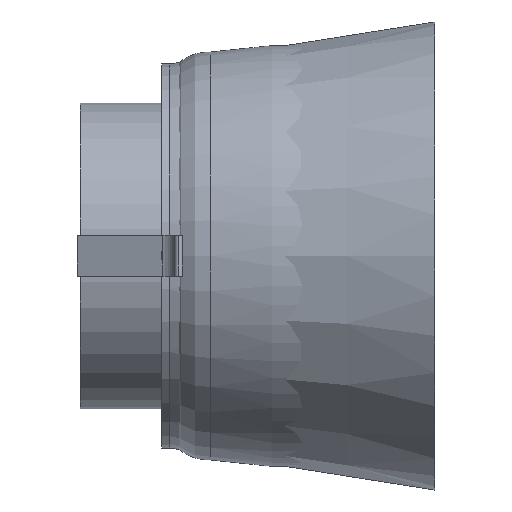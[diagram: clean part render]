
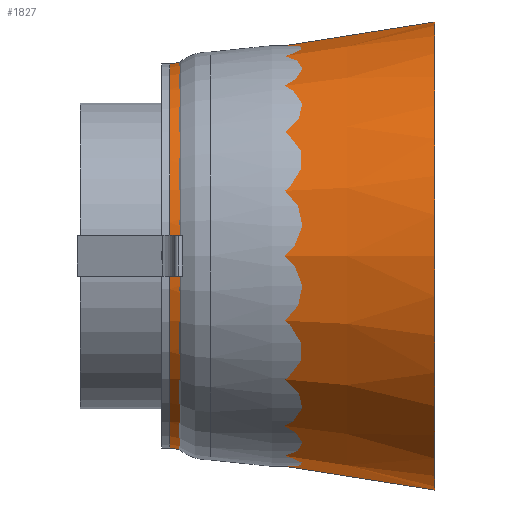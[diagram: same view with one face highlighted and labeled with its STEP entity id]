
A CAD part, left-side view. The second image highlights one B-rep face of the part: STEP entity #1827.
In plain terms, the highlighted conical face has half-angle 9 degrees and reference radius 47.069 mm.
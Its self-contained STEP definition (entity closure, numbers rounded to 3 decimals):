
#66 = DIRECTION ( 'NONE',  ( 0., -1., 0. ) ) ;
#121 = FACE_OUTER_BOUND ( 'NONE', #1306, .T. ) ;
#146 = CARTESIAN_POINT ( 'NONE',  ( 0., 65., -47.069 ) ) ;
#173 = AXIS2_PLACEMENT_3D ( 'NONE', #1304, #1663, #500 ) ;
#178 = EDGE_CURVE ( 'NONE', #1421, #1646, #942, .T. ) ;
#328 = CARTESIAN_POINT ( 'NONE',  ( 0., 65., 47.069 ) ) ;
#332 = ORIENTED_EDGE ( 'NONE', *, *, #1939, .F. ) ;
#401 = CARTESIAN_POINT ( 'NONE',  ( 0., 0., 57.364 ) ) ;
#467 = VECTOR ( 'NONE', #2043, 1000. ) ;
#480 = CARTESIAN_POINT ( 'NONE',  ( 0., 65., -47.069 ) ) ;
#500 = DIRECTION ( 'NONE',  ( 0., 0., -1. ) ) ;
#705 = DIRECTION ( 'NONE',  ( 0., 0., -1. ) ) ;
#706 = VERTEX_POINT ( 'NONE', #1282 ) ;
#708 = EDGE_CURVE ( 'NONE', #787, #706, #1365, .T. ) ;
#747 = AXIS2_PLACEMENT_3D ( 'NONE', #1549, #2036, #705 ) ;
#787 = VERTEX_POINT ( 'NONE', #146 ) ;
#942 = LINE ( 'NONE', #1514, #467 ) ;
#1171 = ORIENTED_EDGE ( 'NONE', *, *, #178, .F. ) ;
#1282 = CARTESIAN_POINT ( 'NONE',  ( 0., 0., -57.364 ) ) ;
#1288 = AXIS2_PLACEMENT_3D ( 'NONE', #1340, #66, #1346 ) ;
#1304 = CARTESIAN_POINT ( 'NONE',  ( 0., 65., 0. ) ) ;
#1306 = EDGE_LOOP ( 'NONE', ( #1171, #1557, #1736, #332 ) ) ;
#1340 = CARTESIAN_POINT ( 'NONE',  ( 0., 65., 0. ) ) ;
#1346 = DIRECTION ( 'NONE',  ( 0., 0., -1. ) ) ;
#1365 = LINE ( 'NONE', #480, #1701 ) ;
#1421 = VERTEX_POINT ( 'NONE', #328 ) ;
#1440 = DIRECTION ( 'NONE',  ( 0., -0.988, -0.156 ) ) ;
#1514 = CARTESIAN_POINT ( 'NONE',  ( 0., 65., 47.069 ) ) ;
#1519 = CIRCLE ( 'NONE', #747, 57.364 ) ;
#1526 = EDGE_CURVE ( 'NONE', #1421, #787, #1977, .T. ) ;
#1549 = CARTESIAN_POINT ( 'NONE',  ( 0., 0., 0. ) ) ;
#1557 = ORIENTED_EDGE ( 'NONE', *, *, #1526, .T. ) ;
#1646 = VERTEX_POINT ( 'NONE', #401 ) ;
#1663 = DIRECTION ( 'NONE',  ( 0., -1., 0. ) ) ;
#1701 = VECTOR ( 'NONE', #1440, 1000. ) ;
#1736 = ORIENTED_EDGE ( 'NONE', *, *, #708, .T. ) ;
#1827 = ADVANCED_FACE ( 'NONE', ( #121 ), #1875, .T. ) ;
#1875 = CONICAL_SURFACE ( 'NONE', #1288, 47.069, 0.157 ) ;
#1939 = EDGE_CURVE ( 'NONE', #1646, #706, #1519, .T. ) ;
#1977 = CIRCLE ( 'NONE', #173, 47.069 ) ;
#2036 = DIRECTION ( 'NONE',  ( 0., -1., 0. ) ) ;
#2043 = DIRECTION ( 'NONE',  ( 0., -0.988, 0.156 ) ) ;
